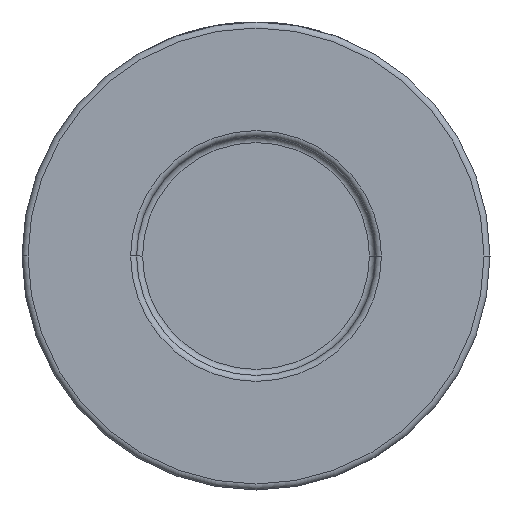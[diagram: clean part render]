
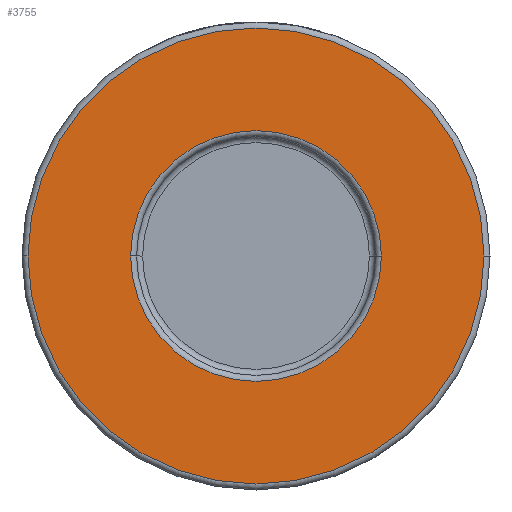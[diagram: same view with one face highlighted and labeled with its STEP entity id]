
A CAD part, front view. The second image highlights one B-rep face of the part: STEP entity #3755.
In plain terms, the highlighted planar face has unit normal (0, -1, 0).
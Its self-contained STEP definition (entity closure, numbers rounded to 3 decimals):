
#57 = CIRCLE ( 'NONE', #929, 38. ) ;
#464 = EDGE_CURVE ( 'NONE', #1823, #4025, #1989, .T. ) ;
#517 = EDGE_CURVE ( 'NONE', #4025, #1823, #3749, .T. ) ;
#540 = CARTESIAN_POINT ( 'NONE',  ( -20.9, -19., 0. ) ) ;
#657 = CARTESIAN_POINT ( 'NONE',  ( 39., -19., 0. ) ) ;
#877 = EDGE_LOOP ( 'NONE', ( #2824, #1250 ) ) ;
#929 = AXIS2_PLACEMENT_3D ( 'NONE', #1086, #1824, #3223 ) ;
#1086 = CARTESIAN_POINT ( 'NONE',  ( 0., -19., 0. ) ) ;
#1157 = CARTESIAN_POINT ( 'NONE',  ( 0., -19., 0. ) ) ;
#1250 = ORIENTED_EDGE ( 'NONE', *, *, #464, .T. ) ;
#1331 = AXIS2_PLACEMENT_3D ( 'NONE', #2066, #3741, #3464 ) ;
#1440 = CARTESIAN_POINT ( 'NONE',  ( 20.9, -19., 0. ) ) ;
#1555 = CARTESIAN_POINT ( 'NONE',  ( 0., -19., 0. ) ) ;
#1651 = CARTESIAN_POINT ( 'NONE',  ( 38., -19., 0. ) ) ;
#1676 = FACE_OUTER_BOUND ( 'NONE', #2265, .T. ) ;
#1823 = VERTEX_POINT ( 'NONE', #540 ) ;
#1824 = DIRECTION ( 'NONE',  ( 0., -1., 0. ) ) ;
#1957 = AXIS2_PLACEMENT_3D ( 'NONE', #1555, #2605, #4006 ) ;
#1989 = CIRCLE ( 'NONE', #1331, 20.9 ) ;
#2042 = DIRECTION ( 'NONE',  ( 0., -1., 0. ) ) ;
#2066 = CARTESIAN_POINT ( 'NONE',  ( 0., -19., 0. ) ) ;
#2089 = DIRECTION ( 'NONE',  ( 1., 0., 0. ) ) ;
#2186 = DIRECTION ( 'NONE',  ( 0., 1., 0. ) ) ;
#2265 = EDGE_LOOP ( 'NONE', ( #4112, #2980 ) ) ;
#2432 = FACE_BOUND ( 'NONE', #877, .T. ) ;
#2605 = DIRECTION ( 'NONE',  ( 0., -1., 0. ) ) ;
#2824 = ORIENTED_EDGE ( 'NONE', *, *, #517, .T. ) ;
#2980 = ORIENTED_EDGE ( 'NONE', *, *, #3581, .T. ) ;
#3218 = DIRECTION ( 'NONE',  ( 1., 0., 0. ) ) ;
#3223 = DIRECTION ( 'NONE',  ( 1., 0., 0. ) ) ;
#3297 = VERTEX_POINT ( 'NONE', #4235 ) ;
#3368 = EDGE_CURVE ( 'NONE', #3834, #3297, #4382, .T. ) ;
#3463 = PLANE ( 'NONE',  #3855 ) ;
#3464 = DIRECTION ( 'NONE',  ( 1., 0., 0. ) ) ;
#3581 = EDGE_CURVE ( 'NONE', #3297, #3834, #57, .T. ) ;
#3741 = DIRECTION ( 'NONE',  ( 0., 1., 0. ) ) ;
#3749 = CIRCLE ( 'NONE', #3895, 20.9 ) ;
#3755 = ADVANCED_FACE ( 'NONE', ( #2432, #1676 ), #3463, .T. ) ;
#3834 = VERTEX_POINT ( 'NONE', #1651 ) ;
#3855 = AXIS2_PLACEMENT_3D ( 'NONE', #657, #2042, #2089 ) ;
#3895 = AXIS2_PLACEMENT_3D ( 'NONE', #1157, #2186, #3218 ) ;
#4006 = DIRECTION ( 'NONE',  ( 1., 0., 0. ) ) ;
#4025 = VERTEX_POINT ( 'NONE', #1440 ) ;
#4112 = ORIENTED_EDGE ( 'NONE', *, *, #3368, .T. ) ;
#4235 = CARTESIAN_POINT ( 'NONE',  ( -38., -19., 0. ) ) ;
#4382 = CIRCLE ( 'NONE', #1957, 38. ) ;
